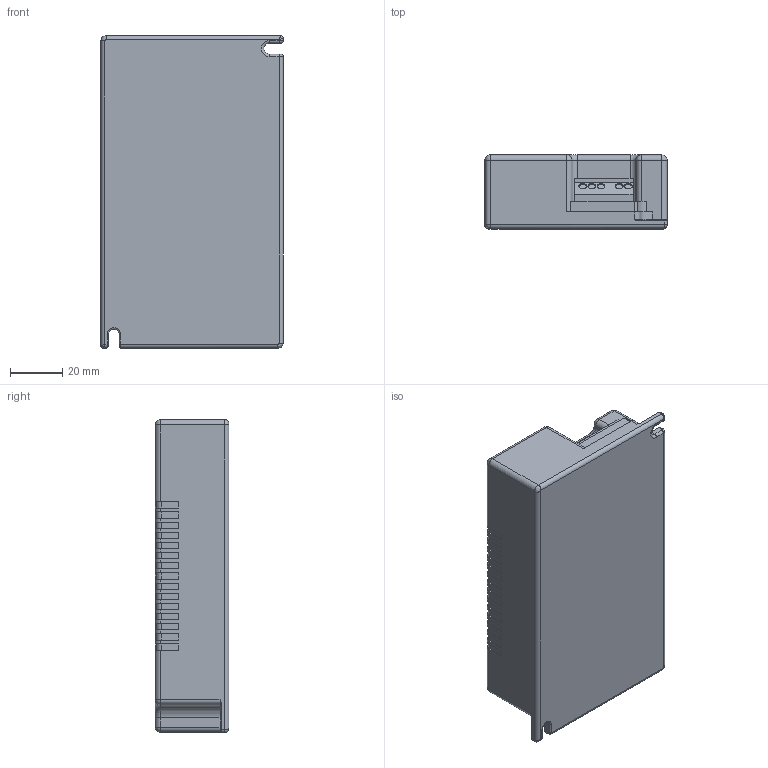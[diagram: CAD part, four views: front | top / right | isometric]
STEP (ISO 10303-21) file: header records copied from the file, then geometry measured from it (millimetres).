
FILE_DESCRIPTION((''),'2;1');
FILE_NAME('15007681_ST4','2013-06-12T',('erich.spiegel'),(''),'PRO/ENGINEER BY PARAMETRIC TECHNOLOGY CORPORATION, 2012420','PRO/ENGINEER BY PARAMETRIC TECHNOLOGY CORPORATION, 2012420','');
FILE_SCHEMA(('AUTOMOTIVE_DESIGN { 1 2 10303 214 0 1 1 1 }'));
Length unit declared in the file: millimetre
Products named in the file (1): 15007681_ST4
Bounding box: 70 x 28.3 x 120 mm (x, y, z)
Volume: 219127.7 mm3; surface area: 29384 mm2
Topology: 1 solids, 1 shells, 419 faces, 1148 edges, 744 vertices
Faces by surface type: plane 222, cylinder 167, torus 14, bspline 8, sphere 8
Entity records: 17378 total; most frequent: CARTESIAN_POINT 2642, DIRECTION 2309, ORIENTED_EDGE 2296, PRESENTATION_STYLE_ASSIGNMENT 1171, STYLED_ITEM 1149, CURVE_STYLE 1148, EDGE_CURVE 1148, VECTOR 781
